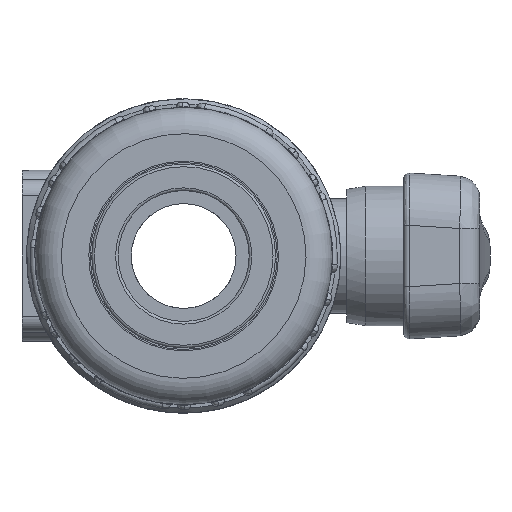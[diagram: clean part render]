
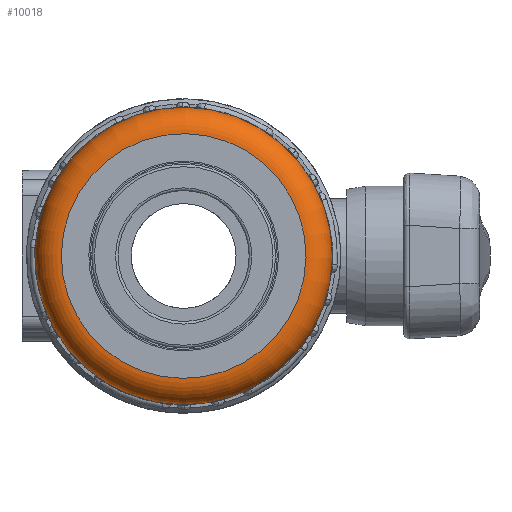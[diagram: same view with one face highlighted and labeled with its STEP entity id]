
A CAD part, front view. The second image highlights one B-rep face of the part: STEP entity #10018.
In plain terms, the highlighted toroidal (fillet/blend) face has major radius 23.35 mm and minor radius 5 mm.
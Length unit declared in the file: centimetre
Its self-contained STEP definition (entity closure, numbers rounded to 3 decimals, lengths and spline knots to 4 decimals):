
#59=TOROIDAL_SURFACE('',#10715,2.335,0.5);
#1952=FACE_BOUND('',#2817,.T.);
#2221=FACE_OUTER_BOUND('',#2816,.T.);
#2816=EDGE_LOOP('',(#7084));
#2817=EDGE_LOOP('',(#7085));
#3452=CIRCLE('',#10713,2.335);
#3454=CIRCLE('',#10716,2.835);
#4085=VERTEX_POINT('',#37200);
#4087=VERTEX_POINT('',#37205);
#5212=EDGE_CURVE('',#4085,#4085,#3452,.T.);
#5214=EDGE_CURVE('',#4087,#4087,#3454,.T.);
#7084=ORIENTED_EDGE('',*,*,#5214,.F.);
#7085=ORIENTED_EDGE('',*,*,#5212,.T.);
#10018=ADVANCED_FACE('',(#2221,#1952),#59,.T.);
#10713=AXIS2_PLACEMENT_3D('',#37201,#12145,#12146);
#10715=AXIS2_PLACEMENT_3D('',#37204,#12149,#12150);
#10716=AXIS2_PLACEMENT_3D('',#37206,#12151,#12152);
#12145=DIRECTION('center_axis',(0.,1.,0.));
#12146=DIRECTION('ref_axis',(-0.354,0.,-0.935));
#12149=DIRECTION('center_axis',(0.,1.,0.));
#12150=DIRECTION('ref_axis',(0.935,0.,-0.354));
#12151=DIRECTION('center_axis',(0.,1.,0.));
#12152=DIRECTION('ref_axis',(-0.354,0.,-0.935));
#37200=CARTESIAN_POINT('',(0.8265,-3.55,2.1838));
#37201=CARTESIAN_POINT('Origin',(0.,-3.55,0.));
#37204=CARTESIAN_POINT('Origin',(0.,-3.05,0.));
#37205=CARTESIAN_POINT('',(1.0035,-3.05,2.6515));
#37206=CARTESIAN_POINT('Origin',(0.,-3.05,0.));
